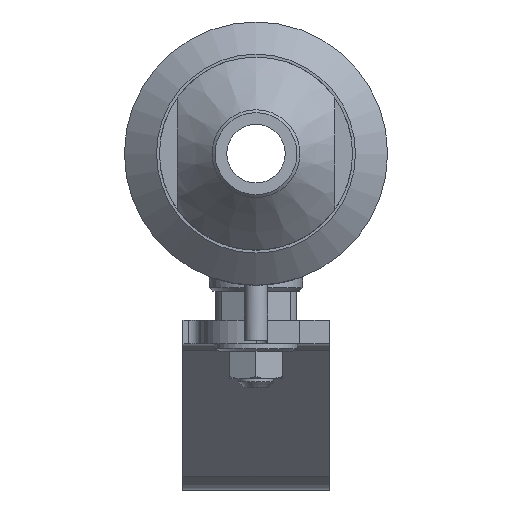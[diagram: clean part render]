
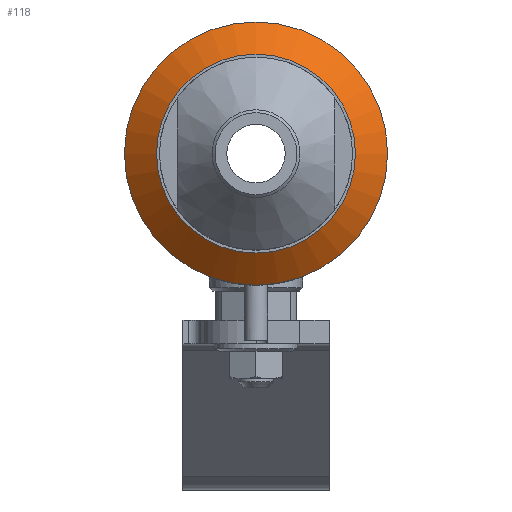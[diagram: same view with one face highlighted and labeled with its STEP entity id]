
A CAD part, left-side view. The second image highlights one B-rep face of the part: STEP entity #118.
In plain terms, the highlighted conical face has half-angle 50 degrees and reference radius 19.75 mm.
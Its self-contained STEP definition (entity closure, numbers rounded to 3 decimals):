
#118=ADVANCED_FACE('',(#937),#939,.T.);
#937=FACE_OUTER_BOUND('',#938,.T.);
#938=EDGE_LOOP('',(#1878,#1879,#1880,#1881));
#939=CONICAL_SURFACE('',#940,19.75,0.873);
#940=AXIS2_PLACEMENT_3D('',#941,#942,#943);
#941=CARTESIAN_POINT('',(-17.692,0.,0.));
#942=DIRECTION('',(1.,0.,0.));
#943=DIRECTION('',(0.,1.,0.));
#1878=ORIENTED_EDGE('',*,*,#2904,.T.);
#1879=ORIENTED_EDGE('',*,*,#2897,.T.);
#1880=ORIENTED_EDGE('',*,*,#2904,.F.);
#1881=ORIENTED_EDGE('',*,*,#2905,.F.);
#2897=EDGE_CURVE('',#3179,#3179,#3181,.T.);
#2904=EDGE_CURVE('',#3191,#3179,#3192,.T.);
#2905=EDGE_CURVE('',#3191,#3191,#3193,.T.);
#3179=VERTEX_POINT('',#4254);
#3181=CIRCLE('',#4258,22.5);
#3191=VERTEX_POINT('',#4286);
#3192=LINE('',#4287,#4288);
#3193=CIRCLE('',#4290,17.);
#4254=CARTESIAN_POINT('',(-15.385,-22.5,0.));
#4258=AXIS2_PLACEMENT_3D('',#4259,#4260,#4261);
#4259=CARTESIAN_POINT('',(-15.385,0.,0.));
#4260=DIRECTION('',(-1.,-0.,0.));
#4261=DIRECTION('',(0.,-1.,0.));
#4286=CARTESIAN_POINT('',(-20.,-17.,0.));
#4287=CARTESIAN_POINT('',(-20.,-17.,0.));
#4288=VECTOR('',#4289,1.);
#4289=DIRECTION('',(0.643,-0.766,0.));
#4290=AXIS2_PLACEMENT_3D('',#4291,#4292,#4293);
#4291=CARTESIAN_POINT('',(-20.,0.,0.));
#4292=DIRECTION('',(-1.,-0.,-0.));
#4293=DIRECTION('',(0.,-1.,0.));
